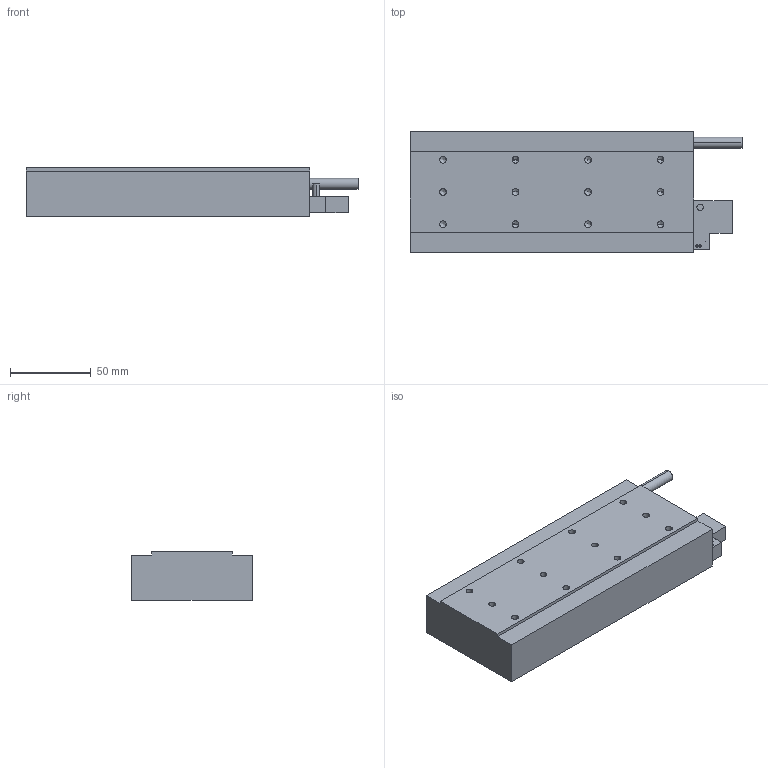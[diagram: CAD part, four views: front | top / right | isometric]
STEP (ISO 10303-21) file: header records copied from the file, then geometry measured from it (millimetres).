
FILE_DESCRIPTION (( 'STEP AP214' ), '1' );
FILE_NAME ('FLT-75-176（带霍尔）.STEP', '2022-04-13T09:12:57', ( 'Microsoft' ), ( 'Microsoft' ), 'SwSTEP 2.0', 'SolidWorks 2016', '' );
FILE_SCHEMA (( 'AUTOMOTIVE_DESIGN' ));
Length unit declared in the file: millimetre
Products named in the file (3): FLT-75-176; FLT-75-176（带霍尔）; FLT齊嫌耀倰芞
Assembly tree (2 placements, depth 2):
  FLT-75-176（带霍尔）
    FLT齊嫌耀倰芞
    FLT-75-176
Bounding box: 206 x 75 x 30 mm (x, y, z)
Volume: 392883.8 mm3; surface area: 45604.6 mm2
Topology: 2 solids, 2 shells, 98 faces, 238 edges, 132 vertices
Faces by surface type: cylinder 44, cone 32, plane 22
Entity records: 3056 total; most frequent: DIRECTION 500, CARTESIAN_POINT 441, ORIENTED_EDGE 412, EDGE_CURVE 206, AXIS2_PLACEMENT_3D 191, VERTEX_POINT 132, EDGE_LOOP 122, VECTOR 118
